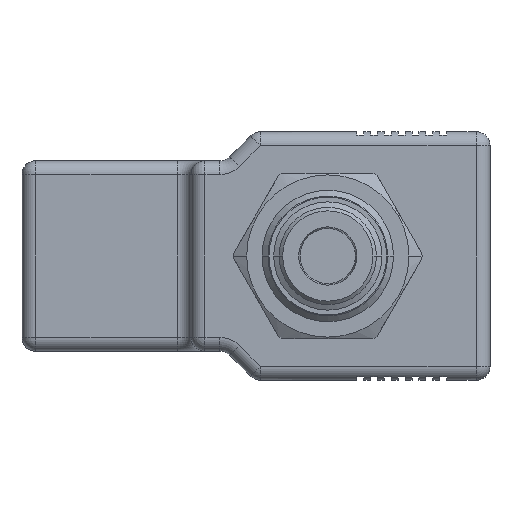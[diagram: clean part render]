
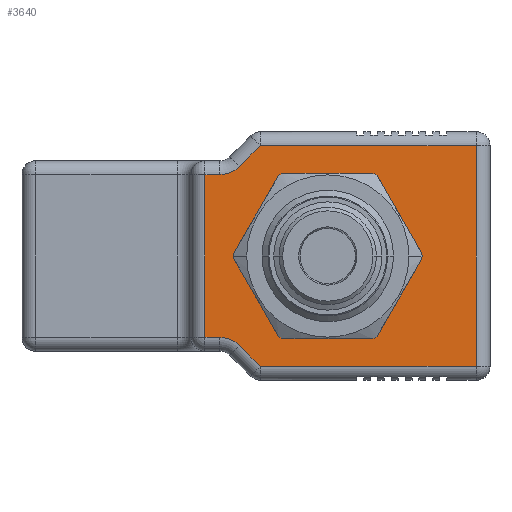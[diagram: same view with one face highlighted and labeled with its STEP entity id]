
A CAD part, left-side view. The second image highlights one B-rep face of the part: STEP entity #3640.
In plain terms, the highlighted planar face has unit normal (-1, 0, 0).
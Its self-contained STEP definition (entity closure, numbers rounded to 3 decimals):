
#183=DIRECTION('',(0.,0.707,0.707));
#184=VECTOR('',#183,4.283);
#185=CARTESIAN_POINT('',(10.5,9.772,-16.));
#186=LINE('',#185,#184);
#187=CARTESIAN_POINT('',(10.5,15.628,-15.8));
#188=DIRECTION('',(-1.,0.,0.));
#189=DIRECTION('',(0.,-0.707,0.707));
#190=AXIS2_PLACEMENT_3D('',#187,#188,#189);
#192=CARTESIAN_POINT('',(10.5,15.628,15.8));
#193=DIRECTION('',(-1.,0.,0.));
#194=DIRECTION('',(0.,0.,-1.));
#195=AXIS2_PLACEMENT_3D('',#192,#193,#194);
#197=DIRECTION('',(0.,-0.707,0.707));
#198=VECTOR('',#197,4.283);
#199=CARTESIAN_POINT('',(10.5,12.8,12.972));
#200=LINE('',#199,#198);
#201=CARTESIAN_POINT('',(10.5,0.,0.));
#202=DIRECTION('',(-1.,0.,0.));
#203=DIRECTION('',(0.,-1.,0.));
#204=AXIS2_PLACEMENT_3D('',#201,#202,#203);
#206=CARTESIAN_POINT('',(10.5,0.,0.));
#207=DIRECTION('',(-1.,0.,0.));
#208=DIRECTION('',(0.,1.,0.));
#209=AXIS2_PLACEMENT_3D('',#206,#207,#208);
#215=DIRECTION('',(0.,0.,1.));
#216=VECTOR('',#215,32.);
#217=CARTESIAN_POINT('',(10.5,-21.5,-16.));
#218=LINE('',#217,#216);
#242=DIRECTION('',(0.,1.,0.));
#243=VECTOR('',#242,31.271);
#244=CARTESIAN_POINT('',(10.5,-21.5,16.));
#245=LINE('',#244,#243);
#482=DIRECTION('',(0.,0.,-1.));
#483=VECTOR('',#482,23.6);
#484=CARTESIAN_POINT('',(10.5,17.8,11.8));
#485=LINE('',#484,#483);
#501=DIRECTION('',(0.,1.,0.));
#502=VECTOR('',#501,2.172);
#503=CARTESIAN_POINT('',(10.5,15.628,11.8));
#504=LINE('',#503,#502);
#606=DIRECTION('',(0.,-1.,0.));
#607=VECTOR('',#606,2.172);
#608=CARTESIAN_POINT('',(10.5,17.8,-11.8));
#609=LINE('',#608,#607);
#700=DIRECTION('',(0.,-1.,0.));
#701=VECTOR('',#700,31.272);
#702=CARTESIAN_POINT('',(10.5,9.772,-16.));
#703=LINE('',#702,#701);
#2839=CARTESIAN_POINT('',(10.5,15.628,11.8));
#2840=CARTESIAN_POINT('',(10.5,17.8,11.8));
#2841=VERTEX_POINT('',#2839);
#2842=VERTEX_POINT('',#2840);
#2847=CARTESIAN_POINT('',(10.5,-21.5,-16.));
#2848=CARTESIAN_POINT('',(10.5,-21.5,16.));
#2849=VERTEX_POINT('',#2847);
#2850=VERTEX_POINT('',#2848);
#2851=CARTESIAN_POINT('',(10.5,9.772,-16.));
#2852=VERTEX_POINT('',#2851);
#2853=CARTESIAN_POINT('',(10.5,12.8,-12.972));
#2854=VERTEX_POINT('',#2853);
#2855=CARTESIAN_POINT('',(10.5,15.628,-11.8));
#2856=VERTEX_POINT('',#2855);
#2857=CARTESIAN_POINT('',(10.5,17.8,-11.8));
#2858=VERTEX_POINT('',#2857);
#2859=CARTESIAN_POINT('',(10.5,12.8,12.972));
#2860=VERTEX_POINT('',#2859);
#2861=CARTESIAN_POINT('',(10.5,9.771,16.));
#2862=VERTEX_POINT('',#2861);
#2863=CARTESIAN_POINT('',(10.5,-11.565,0.));
#2864=CARTESIAN_POINT('',(10.5,11.565,0.));
#2865=VERTEX_POINT('',#2863);
#2866=VERTEX_POINT('',#2864);
#3608=CARTESIAN_POINT('',(10.5,24.3,-16.));
#3609=DIRECTION('',(-1.,0.,0.));
#3610=DIRECTION('',(0.,0.,1.));
#3611=AXIS2_PLACEMENT_3D('',#3608,#3609,#3610);
#3612=PLANE('',#3611);
#3614=ORIENTED_EDGE('',*,*,#3613,.F.);
#3616=ORIENTED_EDGE('',*,*,#3615,.F.);
#3618=ORIENTED_EDGE('',*,*,#3617,.T.);
#3620=ORIENTED_EDGE('',*,*,#3619,.T.);
#3622=ORIENTED_EDGE('',*,*,#3621,.F.);
#3624=ORIENTED_EDGE('',*,*,#3623,.F.);
#3626=ORIENTED_EDGE('',*,*,#3625,.F.);
#3628=ORIENTED_EDGE('',*,*,#3627,.T.);
#3630=ORIENTED_EDGE('',*,*,#3629,.T.);
#3632=ORIENTED_EDGE('',*,*,#3631,.F.);
#3633=EDGE_LOOP('',(#3614,#3616,#3618,#3620,#3622,#3624,#3626,#3628,#3630,
#3632));
#3634=FACE_OUTER_BOUND('',#3633,.F.);
#3635=ORIENTED_EDGE('',*,*,#3586,.T.);
#3637=ORIENTED_EDGE('',*,*,#3636,.T.);
#3638=EDGE_LOOP('',(#3635,#3637));
#3639=FACE_BOUND('',#3638,.F.);
#191=CIRCLE('',#190,4.);
#196=CIRCLE('',#195,4.);
#205=CIRCLE('',#204,11.565);
#210=CIRCLE('',#209,11.565);
#3586=EDGE_CURVE('',#2865,#2866,#205,.T.);
#3613=EDGE_CURVE('',#2849,#2850,#218,.T.);
#3615=EDGE_CURVE('',#2852,#2849,#703,.T.);
#3617=EDGE_CURVE('',#2852,#2854,#186,.T.);
#3619=EDGE_CURVE('',#2854,#2856,#191,.T.);
#3621=EDGE_CURVE('',#2858,#2856,#609,.T.);
#3623=EDGE_CURVE('',#2842,#2858,#485,.T.);
#3625=EDGE_CURVE('',#2841,#2842,#504,.T.);
#3627=EDGE_CURVE('',#2841,#2860,#196,.T.);
#3629=EDGE_CURVE('',#2860,#2862,#200,.T.);
#3631=EDGE_CURVE('',#2850,#2862,#245,.T.);
#3636=EDGE_CURVE('',#2866,#2865,#210,.T.);
#3640=ADVANCED_FACE('',(#3634,#3639),#3612,.T.);
